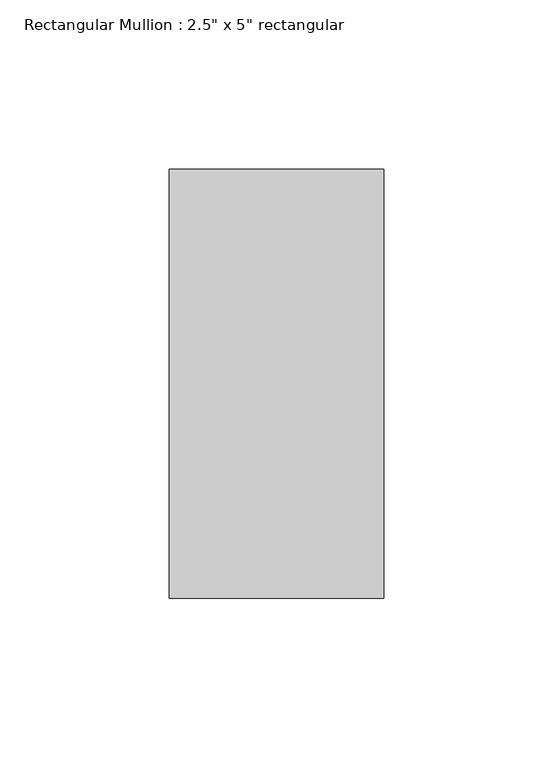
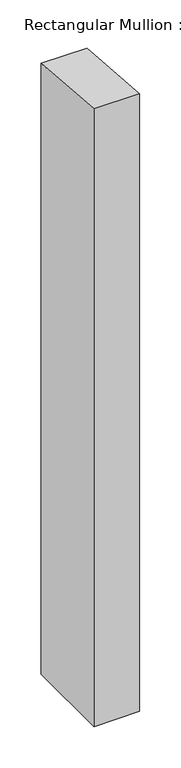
"""IFC4 building model written with IfcOpenShell, lengths in millimetres: member geometry."""

from ifc_helpers import new_model, si_unit, frame, origin, place, context, project, spatial, polyline, outline, extrude, source, transform, mapped, element, save


def member_0f373adf(model_context):
    return source(origin(), model_context, "Body", "SweptSolid", [
        extrude(outline(polyline([(-63.5, 5.050167), (63.5, -5.050167), (63.5, -903.8221115), (-63.5, -903.8221115), (-63.5, 5.050167)])), frame((-63.5, 0.0, 0.0), z_axis=(1.0, 0.0, 0.0), x_axis=(0.0, 1.0, 0.0)), (0.0, 0.0, 1.0), 63.5),
    ])


if __name__ == "__main__":
    model = new_model("IFC4")
    model_context = context("Model", 3, world=origin())
    ifc_project = project(units=[si_unit("LENGTHUNIT", "METRE", prefix="MILLI")], contexts=[model_context])
    site = spatial("IfcSite", under=ifc_project)
    building = spatial("IfcBuilding", under=site)
    placement = place(None, origin())
    member_shape = member_0f373adf(model_context)
    element("IfcMember", 1, ObjectType="Rectangular Mullion : 2.5\" x 5\" rectangular", at=placement, inside=building, context=model_context, shape_type="MappedRepresentation", body=[
        mapped(member_shape, transform((0.0, 0.0, 0.0), x_axis=(1.0, 0.0, 0.0), y_axis=(0.0, 1.0, 0.0), z_axis=(0.0, 0.0, 1.0))),
    ])
    save(model, "model.ifc")
